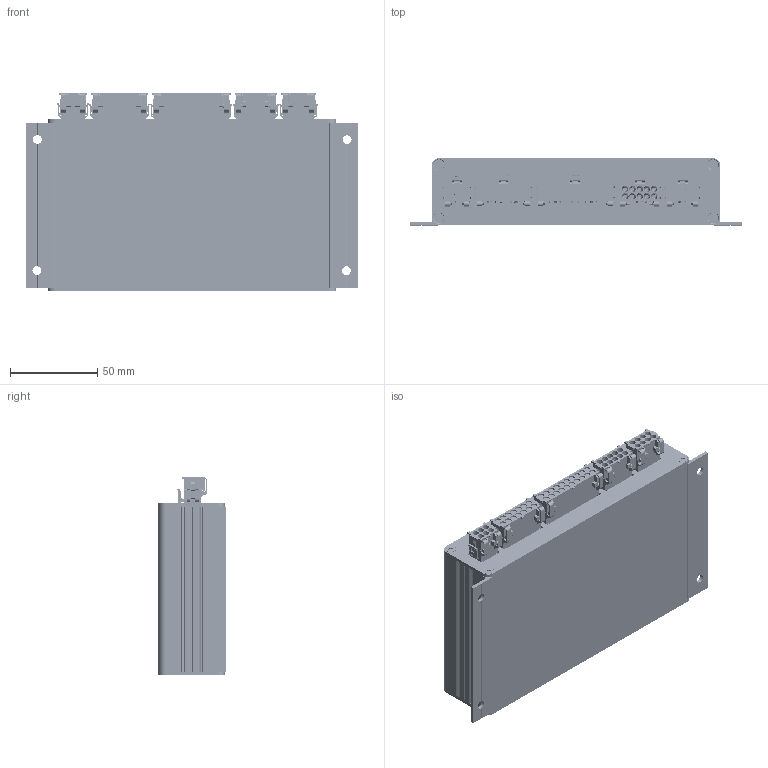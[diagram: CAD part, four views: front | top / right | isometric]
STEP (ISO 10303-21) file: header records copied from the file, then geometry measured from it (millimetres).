
FILE_DESCRIPTION((''),'2;1');
FILE_NAME('2Q_SESTAV_KONCAN_ASM','2023-11-14T12:17:47',('Uporabnik'),(''),'CREO PARAMETRIC BY PTC INC, 2023073','CREO PARAMETRIC BY PTC INC, 2023073','');
FILE_SCHEMA(('CONFIG_CONTROL_DESIGN'));
Products named in the file (708): 1003408___00___GB_301_100_4; 1003427___00___DP_AKG_165_38_2; BODY2_2; 2Q_SESTAV_ASM_2_ASM; BOARD-1133_1_2_1; GEH_X2_00E4_X0_USE-16456_1_2_1; GEH_X2_00E4_X0_USE-27027_1_2_1; GEH_X2_00E4_X0_USE-27586_1_2_1; GEH_X2_00E4_X0_USE-45252_1_2_1; PIN_1_2_1; 744253XXX_1_2_ASM_1_ASM; L8_1_2_ASM_1_ASM; USER_LIBRARY-SOIC-8-1_1_2_1; U23_1_2_ASM_1_ASM; STP_9774160360__REV1__1_2_1; P10_1_2_ASM_1_ASM; 1206FUSE_1_2_3_4_1_1; 1206FUSE_1_2_3_4_2_1; 1206FUSE_1_2_3_4_3_1; 1206FUSE_1_2_3_4_4_1; 1206FUSE_1_2_3_4_ASM_1_ASM; F32_1_2_ASM_1_ASM; KEYSTONE_8190_1_2_1; P11_1_2_ASM_1_ASM; EXTRUDED-87546_1_2_1; 656961408_1_2_ASM_1_ASM; C58_1_2_ASM_1_ASM; EXTRUDED-87941_1_2_1; 656961280_1_2_ASM_1_ASM; R43_1_2_ASM_1_ASM; D-PAK__TO252AA__1_2_1; T8_1_2_ASM_1_ASM; F30_1_2_ASM_1_ASM; PLL1_27-10_1_2_1; P9_1_2_ASM_1_ASM; _T1SSW-104-01-G-D_1_2_1; _P2SSW-104-01-G-D_1_2_1; SSW-104-01-G-D_1_2_ASM_1_ASM; P8_1_2_ASM_1_ASM; _T1SSW-119-01-G-D_1_2_1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
Assembly tree (1198 placements, depth 9):
  2Q_SESTAV_KONCAN_ASM
    2Q_SESTAV_3DMODEL_ASM_2_ASM
      2Q_SESTAV_ASM_2_ASM
        1003408___00___GB_301_100_4
        1003427___00___DP_AKG_165_38_2
        BODY2_2
      ASM0002_ASM_1_ASM
        PCB_1_2_ASM_2_ASM
          BOARD-1133_1_2_1
          L8_1_2_ASM_1_ASM
            744253XXX_1_2_ASM_1_ASM
              GEH_X2_00E4_X0_USE-16456_1_2_1
              GEH_X2_00E4_X0_USE-27027_1_2_1
              GEH_X2_00E4_X0_USE-27586_1_2_1
              GEH_X2_00E4_X0_USE-45252_1_2_1
              PIN_1_2_1  x6
          U23_1_2_ASM_1_ASM
            USER_LIBRARY-SOIC-8-1_1_2_1
          P10_1_2_ASM_1_ASM
            STP_9774160360__REV1__1_2_1
          F32_1_2_ASM_1_ASM
            1206FUSE_1_2_3_4_ASM_1_ASM
              1206FUSE_1_2_3_4_1_1
              1206FUSE_1_2_3_4_2_1
              1206FUSE_1_2_3_4_3_1
              1206FUSE_1_2_3_4_4_1
          P11_1_2_ASM_1_ASM
            KEYSTONE_8190_1_2_1
          C58_1_2_ASM_1_ASM
            656961408_1_2_ASM_1_ASM
              EXTRUDED-87546_1_2_1
          R43_1_2_ASM_1_ASM
            656961280_1_2_ASM_1_ASM
              EXTRUDED-87941_1_2_1
          T8_1_2_ASM_1_ASM
            D-PAK__TO252AA__1_2_1
          F30_1_2_ASM_1_ASM
            1206FUSE_1_2_3_4_ASM_1_ASM
              1206FUSE_1_2_3_4_1_1
              1206FUSE_1_2_3_4_2_1
              1206FUSE_1_2_3_4_3_1
              1206FUSE_1_2_3_4_4_1
          P9_1_2_ASM_1_ASM
            PLL1_27-10_1_2_1
          P8_1_2_ASM_1_ASM
            SSW-104-01-G-D_1_2_ASM_1_ASM
              _T1SSW-104-01-G-D_1_2_1
              _P2SSW-104-01-G-D_1_2_1
          P7_1_2_ASM_1_ASM
            SSW-119-01-G-D_1_2_ASM_1_ASM
              _T1SSW-119-01-G-D_1_2_1
              _P2SSW-119-01-G-D_1_2_1
          D1_1_2_ASM_1_ASM
            LED1206G_1_2_ASM_1_ASM
              OPEN_CASCADE_STEP_TRANSL-1537_2_ASM
                352697808-153836_1_2_ASM_1_ASM
                  EXTRUDED2-153846_1_2_1
                352697808-154208_1_2_ASM_1_ASM
                  EXTRUDED2-153846_1_2_1
                352697936-154236_1_2_ASM_1_ASM
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Bounding box: 190 x 38.5 x 113.49 mm (x, y, z)
Volume: 186863.7 mm3; surface area: 270980.5 mm2
Topology: 934 solids, 977 shells, 26504 faces, 70587 edges, 46816 vertices
Faces by surface type: plane 18755, cylinder 4487, extrusion 1753, torus 838, cone 345, bspline 258, sphere 68
Entity records: 474430 total; most frequent: CARTESIAN_POINT 140527, DIRECTION 68567, ORIENTED_EDGE 66171, EDGE_CURVE 33163, VECTOR 24493, LINE 24326, AXIS2_PLACEMENT_3D 22037, VERTEX_POINT 21826
